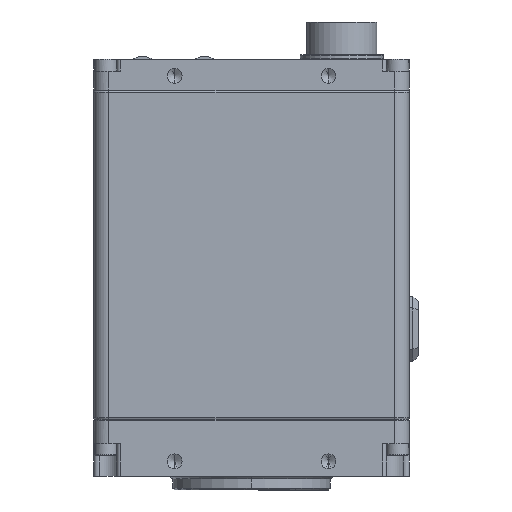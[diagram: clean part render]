
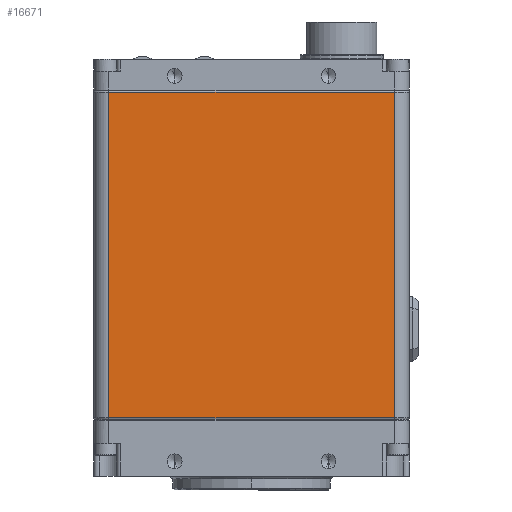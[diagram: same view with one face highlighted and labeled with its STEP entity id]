
A CAD part, front view. The second image highlights one B-rep face of the part: STEP entity #16671.
In plain terms, the highlighted planar face has unit normal (0, -1, 0).
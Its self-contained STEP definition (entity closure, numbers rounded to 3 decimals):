
#910 = DIRECTION ( 'NONE',  ( 1., 0., 0. ) ) ;
#2537 = CARTESIAN_POINT ( 'NONE',  ( 24.13, -16.51, -44.701 ) ) ;
#3284 = VERTEX_POINT ( 'NONE', #13765 ) ;
#3432 = VERTEX_POINT ( 'NONE', #24402 ) ;
#3575 = EDGE_CURVE ( 'NONE', #3432, #39477, #14730, .T. ) ;
#6221 = CARTESIAN_POINT ( 'NONE',  ( 24.13, -16.51, -44.955 ) ) ;
#6804 = VECTOR ( 'NONE', #28033, 1000. ) ;
#7390 = VECTOR ( 'NONE', #44012, 1000. ) ;
#10848 = CARTESIAN_POINT ( 'NONE',  ( 24.13, -16.51, 10.316 ) ) ;
#11983 = CARTESIAN_POINT ( 'NONE',  ( -26.67, -16.51, -44.955 ) ) ;
#13765 = CARTESIAN_POINT ( 'NONE',  ( -24.13, -16.51, 10.316 ) ) ;
#14016 = DIRECTION ( 'NONE',  ( 0., 0., -1. ) ) ;
#14715 = EDGE_LOOP ( 'NONE', ( #16431, #30141, #19784, #48439 ) ) ;
#14730 = LINE ( 'NONE', #19901, #28470 ) ;
#16431 = ORIENTED_EDGE ( 'NONE', *, *, #46844, .T. ) ;
#16671 = ADVANCED_FACE ( 'NONE', ( #40421 ), #23287, .F. ) ;
#16915 = LINE ( 'NONE', #28361, #6804 ) ;
#19304 = LINE ( 'NONE', #21521, #38396 ) ;
#19784 = ORIENTED_EDGE ( 'NONE', *, *, #46842, .T. ) ;
#19901 = CARTESIAN_POINT ( 'NONE',  ( 24.13, -16.51, -44.701 ) ) ;
#20160 = EDGE_CURVE ( 'NONE', #25942, #3284, #16915, .T. ) ;
#21521 = CARTESIAN_POINT ( 'NONE',  ( -24.13, -16.51, -44.955 ) ) ;
#23287 = PLANE ( 'NONE',  #23309 ) ;
#23309 = AXIS2_PLACEMENT_3D ( 'NONE', #11983, #42106, #27287 ) ;
#24402 = CARTESIAN_POINT ( 'NONE',  ( -24.13, -16.51, -44.701 ) ) ;
#25942 = VERTEX_POINT ( 'NONE', #10848 ) ;
#27287 = DIRECTION ( 'NONE',  ( 1., 0., 0. ) ) ;
#28033 = DIRECTION ( 'NONE',  ( -1., 0., 0. ) ) ;
#28361 = CARTESIAN_POINT ( 'NONE',  ( -26.67, -16.51, 10.316 ) ) ;
#28470 = VECTOR ( 'NONE', #910, 1000. ) ;
#30141 = ORIENTED_EDGE ( 'NONE', *, *, #3575, .T. ) ;
#38396 = VECTOR ( 'NONE', #14016, 1000. ) ;
#39477 = VERTEX_POINT ( 'NONE', #2537 ) ;
#40421 = FACE_OUTER_BOUND ( 'NONE', #14715, .T. ) ;
#42106 = DIRECTION ( 'NONE',  ( 0., 1., 0. ) ) ;
#44012 = DIRECTION ( 'NONE',  ( 0., 0., 1. ) ) ;
#46842 = EDGE_CURVE ( 'NONE', #39477, #25942, #47837, .T. ) ;
#46844 = EDGE_CURVE ( 'NONE', #3284, #3432, #19304, .T. ) ;
#47837 = LINE ( 'NONE', #6221, #7390 ) ;
#48439 = ORIENTED_EDGE ( 'NONE', *, *, #20160, .T. ) ;
